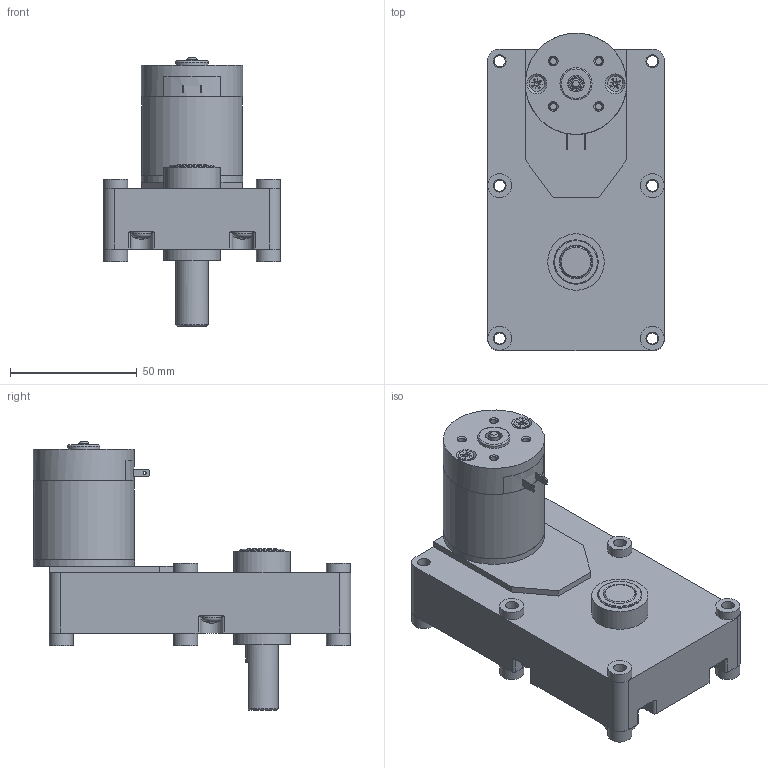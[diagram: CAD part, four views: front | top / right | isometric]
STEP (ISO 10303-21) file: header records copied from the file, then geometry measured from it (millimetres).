
FILE_DESCRIPTION((''),'2;1');
FILE_NAME('D:\업무 관련\2. DC\홈페이지 링크용 도면\3D\SG\SG42BT.stp','2015-04-04T09:20:56',('leejy'),(''),'Autodesk Inventor 2013','Autodesk Inventor 2013','');
FILE_SCHEMA(('AUTOMOTIVE_DESIGN { 1 0 10303 214 1 1 1 1 }'));
Length unit declared in the file: millimetre
Products named in the file (10): SG42BT; SG2 SERIES BOX; RM42ㅁBT; REAR_HOUSING__ASS'Y_TERMINAL; RM4TYPE_BRUSH_BRAKET_TERMINAL; RM4TYPE_REAR_HOUSING; RM4TYPE_FRONT_HOUSING_; RM4TYPE_PIPE_HOUSING_pi40XL31.2; RM42TYPE_SHAFT; AS 1427 Z - 미터 M3.5 x 5
Assembly tree (9 placements, depth 3):
  SG42BT
    SG2 SERIES BOX
    RM42ㅁBT
      RM4TYPE_FRONT_HOUSING_
      RM4TYPE_PIPE_HOUSING_pi40XL31.2
      RM42TYPE_SHAFT
      AS 1427 Z - 미터 M3.5 x 5  x2
  REAR_HOUSING__ASS'Y_TERMINAL
    RM4TYPE_BRUSH_BRAKET_TERMINAL
    RM4TYPE_REAR_HOUSING
Bounding box: 69.85 x 125.41 x 106.08 mm (x, y, z)
Volume: 119003.1 mm3; surface area: 72109.6 mm2
Topology: 9 solids, 9 shells, 537 faces, 1406 edges, 909 vertices
Faces by surface type: plane 215, cylinder 129, cone 127, torus 60, sphere 6
Full cylindrical faces by diameter (mm): 1.2 x2, 2.7 x4, 2.8 x4, 3.132 x2, 3.5 x2, 3.571 x6, 3.7 x2, 3.969 x1, 4 x7, 4.3 x6, 4.4 x6, 4.45 x1, 5 x1, 5.05 x6, 6 x1, 6.1 x2, 6.5 x1, 6.65 x1, 9.4 x1, 9.5 x9, 12.7 x5, 17.5 x4, 20.3 x1, 22.3 x2, 36.5 x1, 40 x3
Entity records: 15561 total; most frequent: CARTESIAN_POINT 3884, DIRECTION 2351, ORIENTED_EDGE 2186, EDGE_CURVE 1093, AXIS2_PLACEMENT_3D 996, VERTEX_POINT 779, EDGE_LOOP 718, FACE_OUTER_BOUND 496
